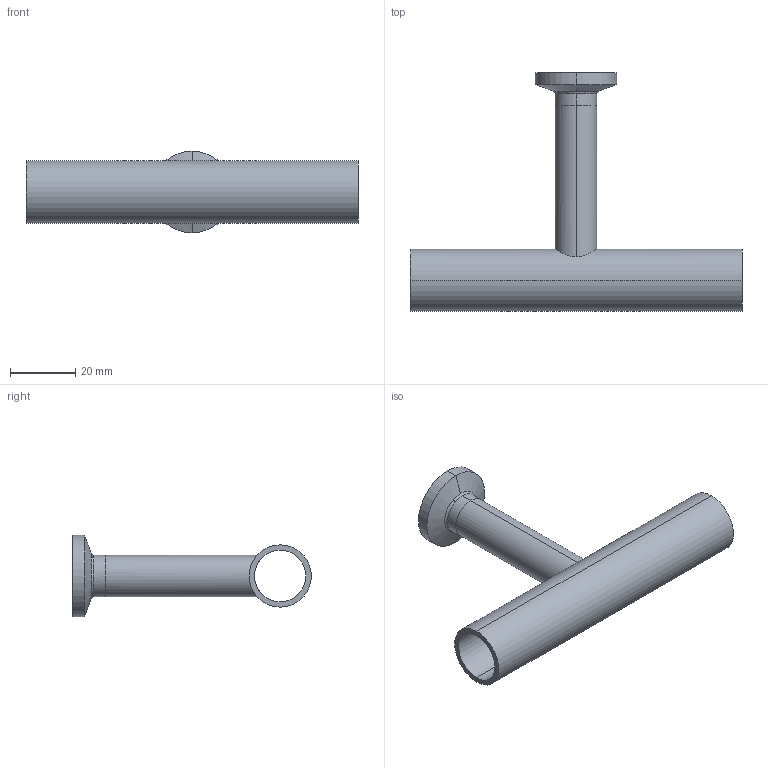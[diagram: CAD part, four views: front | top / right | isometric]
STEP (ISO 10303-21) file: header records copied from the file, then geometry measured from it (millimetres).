
FILE_DESCRIPTION (( 'STEP AP214' ), '1' );
FILE_NAME ('TE7RWWC6L.75x.5-...STEP', '2016-05-23T07:38:51', ( 'eran' ), ( '' ), 'SwSTEP 2.0', 'SolidWorks 2016', '' );
FILE_SCHEMA (( 'AUTOMOTIVE_DESIGN' ));
Length unit declared in the file: millimetre
Products named in the file (1): TE7RWWC6L.75x.5-..
Bounding box: 101.6 x 73.03 x 24.99 mm (x, y, z)
Volume: 13503.6 mm3; surface area: 16032.2 mm2
Topology: 2 solids, 2 shells, 34 faces, 82 edges, 54 vertices
Faces by surface type: cylinder 16, bspline 8, plane 6, cone 4
Entity records: 1307 total; most frequent: CARTESIAN_POINT 451, DIRECTION 182, ORIENTED_EDGE 164, EDGE_CURVE 82, AXIS2_PLACEMENT_3D 81, VERTEX_POINT 54, CIRCLE 54, EDGE_LOOP 42
